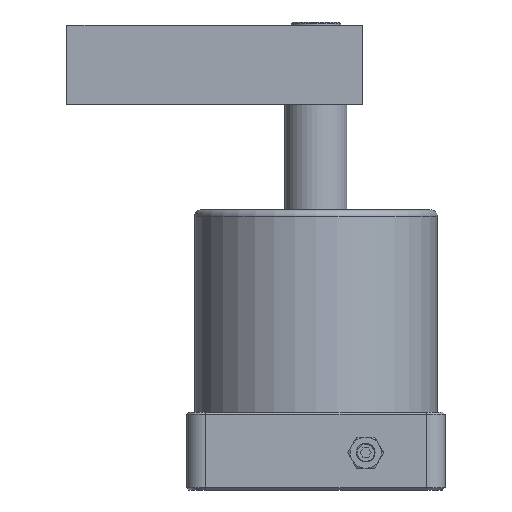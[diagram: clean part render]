
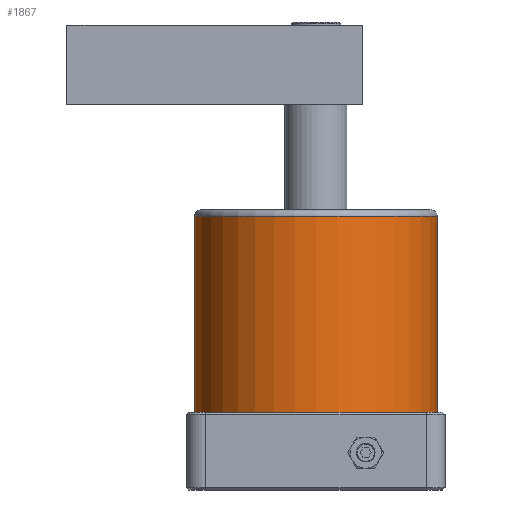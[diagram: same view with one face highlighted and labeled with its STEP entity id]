
A CAD part, front view. The second image highlights one B-rep face of the part: STEP entity #1867.
In plain terms, the highlighted cylindrical face has radius 39 mm (diameter 78 mm), a full revolution.
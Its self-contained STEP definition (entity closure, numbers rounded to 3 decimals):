
#64=CYLINDRICAL_SURFACE('',#2421,39.);
#413=CIRCLE('',#2413,39.);
#420=CIRCLE('',#2422,39.);
#710=ORIENTED_EDGE('',*,*,#1097,.T.);
#711=ORIENTED_EDGE('',*,*,#1086,.T.);
#1086=EDGE_CURVE('',#1293,#1293,#413,.T.);
#1097=EDGE_CURVE('',#1304,#1304,#420,.F.);
#1293=VERTEX_POINT('',#5115);
#1304=VERTEX_POINT('',#5139);
#1478=EDGE_LOOP('',(#710));
#1479=EDGE_LOOP('',(#711));
#1678=FACE_BOUND('',#1478,.T.);
#1679=FACE_BOUND('',#1479,.T.);
#1867=ADVANCED_FACE('',(#1678,#1679),#64,.T.);
#2413=AXIS2_PLACEMENT_3D('',#5114,#2770,#2771);
#2421=AXIS2_PLACEMENT_3D('',#5137,#2790,#2791);
#2422=AXIS2_PLACEMENT_3D('',#5138,#2792,#2793);
#2770=DIRECTION('',(0.,0.,1.));
#2771=DIRECTION('',(-1.,0.,0.));
#2790=DIRECTION('',(0.,0.,-1.));
#2791=DIRECTION('',(0.,1.,0.));
#2792=DIRECTION('',(0.,0.,1.));
#2793=DIRECTION('',(0.,-1.,0.));
#5114=CARTESIAN_POINT('',(19.25,47.,-50.2));
#5115=CARTESIAN_POINT('',(-19.75,47.,-50.2));
#5137=CARTESIAN_POINT('',(19.25,47.,14.8));
#5138=CARTESIAN_POINT('',(19.25,47.,12.8));
#5139=CARTESIAN_POINT('',(19.25,8.,12.8));
